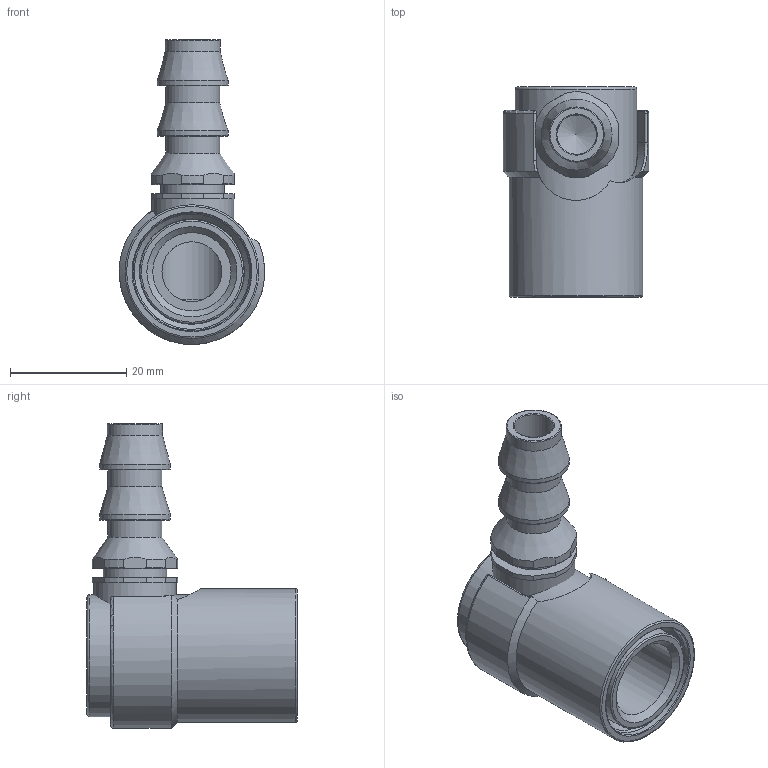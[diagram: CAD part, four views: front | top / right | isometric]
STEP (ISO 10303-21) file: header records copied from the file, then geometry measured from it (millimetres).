
FILE_DESCRIPTION(/* description */ (''),/* implementation_level */ '2;1');
FILE_NAME(/* name */ 'C:/Users/drich/Desktop/SJ300-6 v3.step',/* time_stamp */ '2019-12-29T15:44:11-06:00',/* author */ (''),/* organization */ (''),/* preprocessor_version */ 'ST-DEVELOPER v18',/* originating_system */ 'Autodesk Translation Framework v8.12.0.6',/* authorisation */ '');
FILE_SCHEMA (('AUTOMOTIVE_DESIGN { 1 0 10303 214 3 1 1 }'));
Length unit declared in the file: inch
Products named in the file (4): SJ300-6; body; SJ300 SLEEVE; CM306-PL BARB ONLY
Assembly tree (3 placements, depth 2):
  SJ300-6
    body
    SJ300 SLEEVE
    CM306-PL BARB ONLY
Bounding box: 25.05 x 36.2 x 52.52 mm (x, y, z)
Volume: 11830.4 mm3; surface area: 11446.8 mm2
Topology: 4 solids, 4 shells, 121 faces, 328 edges, 222 vertices
Faces by surface type: cylinder 44, plane 31, torus 22, cone 16, bspline 6, sphere 2
Full cylindrical faces by diameter (mm): 6.807 x1, 9.303 x2, 9.5 x1, 10.312 x2, 10.922 x1, 11.824 x1, 12.192 x2, 13.487 x1, 13.843 x1, 14.173 x1, 14.254 x2, 14.72 x2, 17.907 x1, 18.034 x1, 20.32 x1, 20.98 x1, 21.082 x1, 23.012 x1
Entity records: 4639 total; most frequent: CARTESIAN_POINT 1359, DIRECTION 712, ORIENTED_EDGE 654, EDGE_CURVE 327, AXIS2_PLACEMENT_3D 309, VERTEX_POINT 222, CIRCLE 187, EDGE_LOOP 137
